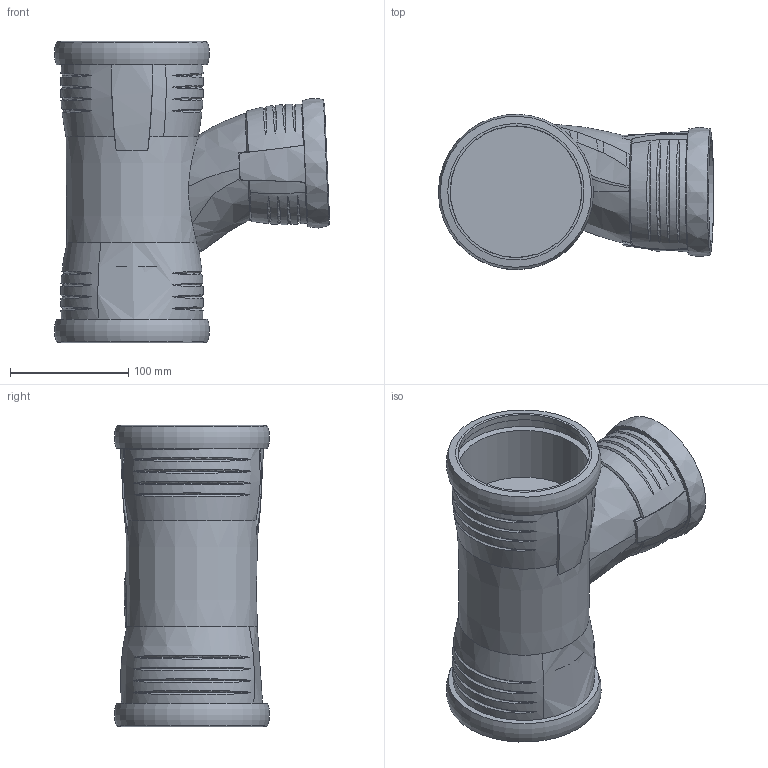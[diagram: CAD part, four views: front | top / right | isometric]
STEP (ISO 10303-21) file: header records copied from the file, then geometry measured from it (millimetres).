
FILE_DESCRIPTION(/* description */ (''),/* implementation_level */ '2;1');
FILE_NAME(/* name */ 'C:\Planerdaten\Export PLA\393.543.14.1\stp\393543.stp',/* time_stamp */ '2022-09-16T14:47:36+02:00',/* author */ ('JANAN'),/* organization */ (''),/* preprocessor_version */ 'ST-DEVELOPER v18.1',/* originating_system */ 'Autodesk Inventor 2021',/* authorisation */ '');
FILE_SCHEMA (('AUTOMOTIVE_DESIGN { 1 0 10303 214 3 1 1 }'));
Length unit declared in the file: millimetre
Products named in the file (1): tmp4795.tmp
Bounding box: 232.39 x 130.96 x 255 mm (x, y, z)
Volume: 1979741.3 mm3; surface area: 238687.8 mm2
Topology: 1 solids, 1 shells, 142 faces, 367 edges, 252 vertices
Faces by surface type: bspline 101, cone 19, cylinder 9, plane 9, torus 4
Full cylindrical faces by diameter (mm): 90.9 x1, 91.2 x1, 100.2 x1, 111 x2, 111.3 x2, 121.5 x2
Entity records: 25303 total; most frequent: CARTESIAN_POINT 22268, ORIENTED_EDGE 732, EDGE_CURVE 366, DIRECTION 361, VERTEX_POINT 253, B_SPLINE_CURVE_WITH_KNOTS 205, EDGE_LOOP 169, AXIS2_PLACEMENT_3D 158
